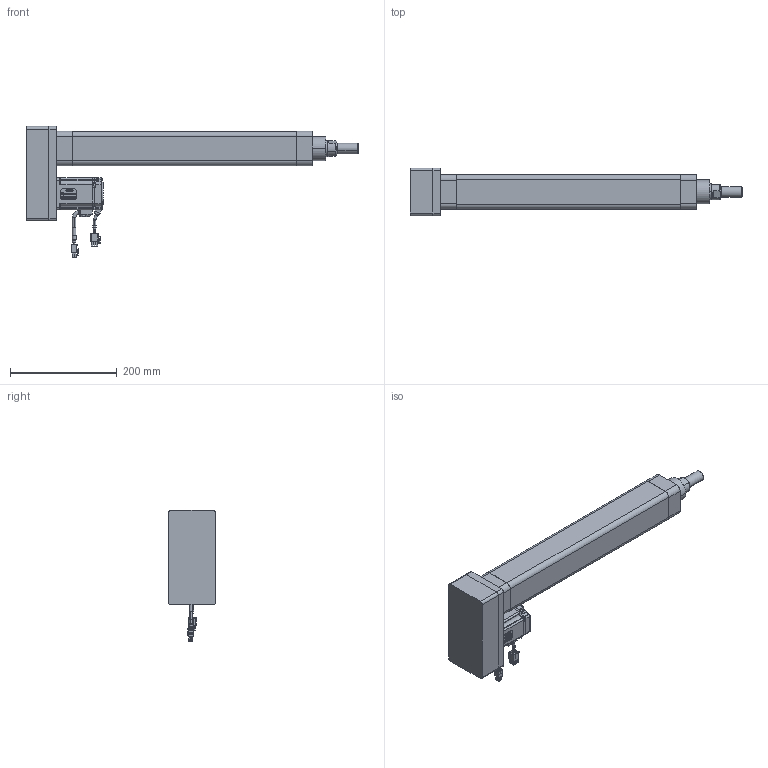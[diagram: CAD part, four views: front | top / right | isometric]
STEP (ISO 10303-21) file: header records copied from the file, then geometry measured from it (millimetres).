
FILE_DESCRIPTION (( 'STEP AP203' ), '1' );
FILE_NAME ('RKD50-P-FA-200W.400W-B3.STEP', '2025-01-23T10:45:09', ( '' ), ( '' ), 'SwSTEP 2.0', 'SolidWorks 2024', '' );
FILE_SCHEMA (( 'CONFIG_CONTROL_DESIGN' ));
Length unit declared in the file: millimetre
Products named in the file (23): 复件 活塞杆^RKD50-P-FA-200W.400W-B3; RKD50-P-FA-200W.400W-B3; 复件 伺服电机60X60-400W^RKD50-P-FA-200W.400W-B3; 复件 _MHMF042L1U2_1^复件 伺服电机60X60-400W_RKD50-P-FA-200W.400W-B3; 复件 RKD-50-D-NEARCAP-PT^复件 RKD50-A_RKD50-P-FA-200W.400W-B3; 复件 RKD-50-HDG^复件 RKD-50-D-NEARCAP-PT_复件 RKD50-A_RKD50-P-FA-200W.400W-B3; 复件 _Cable Motor Top 04_2^复件 伺服电机60X60-400W_RKD50-P-FA-200W.400W-B3; 复件 电机选型销售_2^复件 伺服电机60X60-400W_RKD50-P-FA-200W.400W-B3; 复件 接头050-009^RKD50-P-FA-200W.400W-B3; 复件 RKD-50-FARCAP-PT^复件 RKD50-A_RKD50-P-FA-200W.400W-B3; 复件 _Motor Connector_2_2^复件 伺服电机60X60-400W_RKD50-P-FA-200W.400W-B3; 复件 RKD-50-BASE-PT^复件 RKD50-A_RKD50-P-FA-200W.400W-B3; 复件 双头拉杆螺栓M8X20^复件 RKD50-A_RKD50-P-FA-200W.400W-B3; 复件 _MHMF Connector 9 Pin_A6_2^复件 伺服电机60X60-400W_RKD50-P-FA-200W.400W-B3; 复件 RKD-50-ZC^复件 RKD-50-D-NEARCAP-PT_复件 RKD50-A_RKD50-P-FA-200W.400W-B3; 复件 _Cable Brake Top 04_2^复件 伺服电机60X60-400W_RKD50-P-FA-200W.400W-B3; 复件 转折板标准^RKD50-P-FA-200W.400W-B3; 复件 _Cable Motor Bottom 04_2^复件 伺服电机60X60-400W_RKD50-P-FA-200W.400W-B3; 复件 _Cable Brake Bottom 04_2^复件 伺服电机60X60-400W_RKD50-P-FA-200W.400W-B3; 复件 标准转折座^RKD50-P-FA-200W.400W-B3; 复件 roundnutsgb-M12^复件 RKD-50-D-NEARCAP-PT_复件 RKD50-A_RKD50-P-FA-200W.400W-B3; 复件 RKD50-A^RKD50-P-FA-200W.400W-B3; 复件 RKD-50-CZ^复件 RKD-50-D-NEARCAP-PT_复件 RKD50-A_RKD50-P-FA-200W.400W-B3
Assembly tree (25 placements, depth 4):
  RKD50-P-FA-200W.400W-B3
    复件 RKD50-A^RKD50-P-FA-200W.400W-B3
      复件 RKD-50-BASE-PT^复件 RKD50-A_RKD50-P-FA-200W.400W-B3
      复件 RKD-50-FARCAP-PT^复件 RKD50-A_RKD50-P-FA-200W.400W-B3
      复件 RKD-50-D-NEARCAP-PT^复件 RKD50-A_RKD50-P-FA-200W.400W-B3
        复件 RKD-50-HDG^复件 RKD-50-D-NEARCAP-PT_复件 RKD50-A_RKD50-P-FA-200W.400W-B3
        复件 RKD-50-CZ^复件 RKD-50-D-NEARCAP-PT_复件 RKD50-A_RKD50-P-FA-200W.400W-B3
        复件 RKD-50-ZC^复件 RKD-50-D-NEARCAP-PT_复件 RKD50-A_RKD50-P-FA-200W.400W-B3
        复件 roundnutsgb-M12^复件 RKD-50-D-NEARCAP-PT_复件 RKD50-A_RKD50-P-FA-200W.400W-B3
      复件 双头拉杆螺栓M8X20^复件 RKD50-A_RKD50-P-FA-200W.400W-B3  x4
    复件 接头050-009^RKD50-P-FA-200W.400W-B3
    复件 转折板标准^RKD50-P-FA-200W.400W-B3
    复件 标准转折座^RKD50-P-FA-200W.400W-B3
    复件 伺服电机60X60-400W^RKD50-P-FA-200W.400W-B3
      复件 _MHMF042L1U2_1^复件 伺服电机60X60-400W_RKD50-P-FA-200W.400W-B3
      复件 _Cable Motor Bottom 04_2^复件 伺服电机60X60-400W_RKD50-P-FA-200W.400W-B3
      复件 _Cable Motor Top 04_2^复件 伺服电机60X60-400W_RKD50-P-FA-200W.400W-B3
      复件 _Motor Connector_2_2^复件 伺服电机60X60-400W_RKD50-P-FA-200W.400W-B3
      复件 _Cable Brake Bottom 04_2^复件 伺服电机60X60-400W_RKD50-P-FA-200W.400W-B3
      复件 _Cable Brake Top 04_2^复件 伺服电机60X60-400W_RKD50-P-FA-200W.400W-B3
      复件 _MHMF Connector 9 Pin_A6_2^复件 伺服电机60X60-400W_RKD50-P-FA-200W.400W-B3
      复件 电机选型销售_2^复件 伺服电机60X60-400W_RKD50-P-FA-200W.400W-B3
    复件 活塞杆^RKD50-P-FA-200W.400W-B3
Bounding box: 622 x 89 x 245.7 mm (x, y, z)
Volume: 2473401.5 mm3; surface area: 444851.7 mm2
Topology: 22 solids, 22 shells, 3179 faces, 8899 edges, 5921 vertices
Faces by surface type: plane 1762, bspline 598, cylinder 583, cone 147, torus 63, sphere 26
Entity records: 121796 total; most frequent: CARTESIAN_POINT 47721, ORIENTED_EDGE 16158, DIRECTION 12550, EDGE_CURVE 8079, VECTOR 5514, LINE 5514, VERTEX_POINT 5344, AXIS2_PLACEMENT_3D 3518
